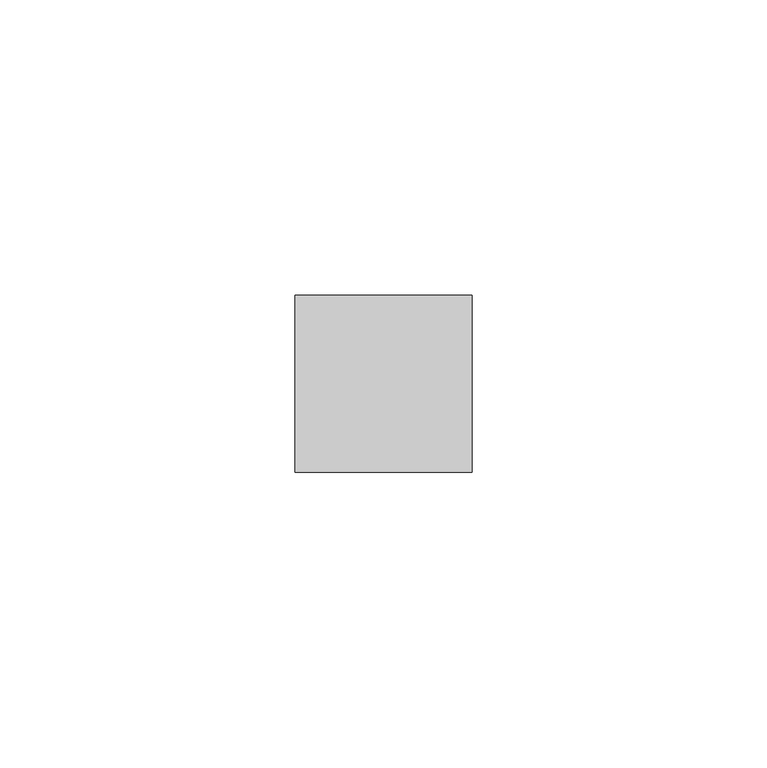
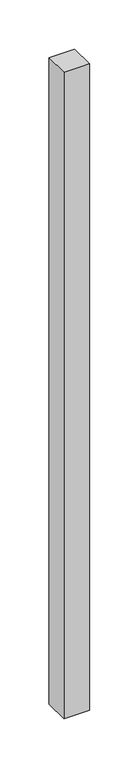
"""IFC4 building model written with IfcOpenShell, lengths in millimetres: member geometry, 矩形竖梃 : 30mm 正方形."""

from ifc_helpers import new_model, si_unit, frame, origin, place, context, project, spatial, polyline, outline, extrude, source, transform, mapped, element, save


def member_d54f5d39(model_context):
    return source(origin(), model_context, "Body", "SweptSolid", [
        extrude(outline(polyline([(0.0, 15.0), (0.0, -15.0), (-30.0, -15.0), (-30.0, 15.0), (0.0, 15.0)])), frame((0.0, 0.0, -800.0), z_axis=(0.0, 0.0, 1.0), x_axis=(1.0, 0.0, 0.0)), (0.0, 0.0, 1.0), 800.0),
    ])


if __name__ == "__main__":
    model = new_model("IFC4")
    model_context = context("Model", 3, world=origin())
    ifc_project = project(units=[si_unit("LENGTHUNIT", "METRE", prefix="MILLI")], contexts=[model_context])
    site = spatial("IfcSite", under=ifc_project)
    building = spatial("IfcBuilding", under=site)
    placement = place(None, origin())
    member_shape = member_d54f5d39(model_context)
    element("IfcMember", 1, ObjectType="矩形竖梃 : 30mm 正方形", at=placement, inside=building, context=model_context, shape_type="MappedRepresentation", body=[
        mapped(member_shape, transform((0.0, 0.0, 0.0), x_axis=(1.0, 0.0, 0.0), y_axis=(0.0, 1.0, 0.0), z_axis=(0.0, 0.0, 1.0))),
    ])
    save(model, "model.ifc")
